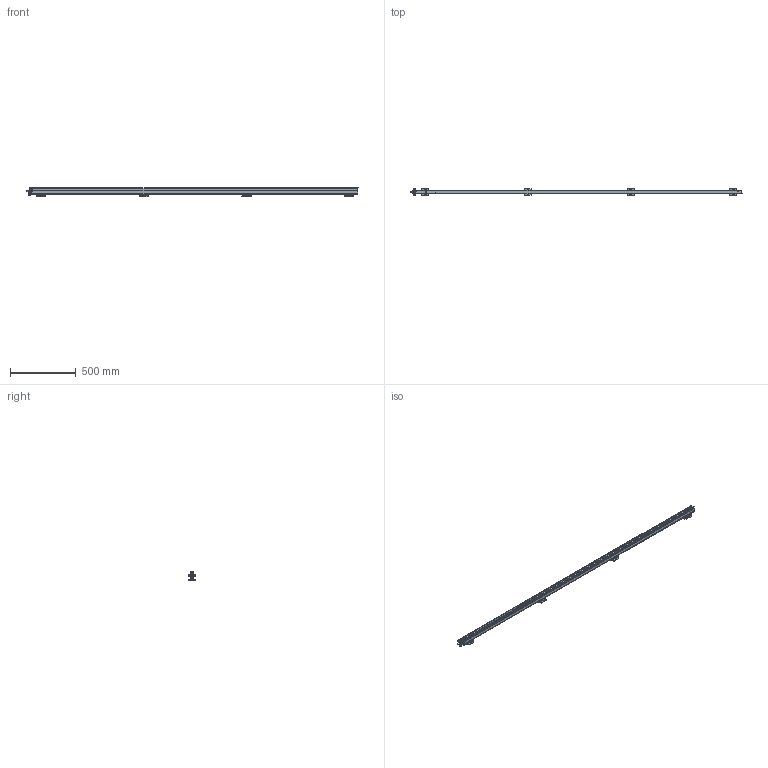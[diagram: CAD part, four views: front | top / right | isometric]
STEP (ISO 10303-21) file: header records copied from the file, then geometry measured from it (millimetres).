
FILE_DESCRIPTION(/* description */ (''),/* implementation_level */ '2;1');
FILE_NAME(/* name */ 'PERFORMAXEASYEX_2310_3D_GB',/* time_stamp */ '2017-05-31T09:53:33+02:00',/* author */ (''),/* organization */ (''),/* preprocessor_version */ 'ST-DEVELOPER v15.7',/* originating_system */ 'HiCAD 2015 2002.1 Build 408',/* authorisation */ '');
FILE_SCHEMA (('AUTOMOTIVE_DESIGN { 1 0 10303 214 1 1 1 1 }'));
Length unit declared in the file: millimetre
Products named in the file (75): Root; -_Performax (IQ) Easy Ex 2310 eff (Speed); -_LED; -_PROFILE; -_POTTING; -_CAP DE; -_CAP CE; -_CABLE; -_PIN; -_COVER; 4532000100_Mounting bracket bars; -_Side piece; -_Slide piece; -_Bracket small; DIN 13-M3; DIN 76-M3; 2047507823_PE connection; DIN 916-M4x20-45H_Set screws; GEWINDE; ISO 8738-4-160 HV_Washers for studs; ISO 4032-M4-10_Hexagon nuts; DIN 127-A 4-FSt_Washers; 2047493713_Cable exits; -_Exit K; -_Clip; -_Gland body; -_Exit S; -_Exit Q; -_Washer ø20mm, 5mm thick for corr. conduit (exit
 Q); -_Exit I; -_Exit U; -_Exit A; Thread_2
Assembly tree (74 placements, depth 5):
  Root
    -_Performax (IQ) Easy Ex 2310 eff (Speed)
      -_LED
      -_PROFILE
      -_POTTING
      -_CAP DE
      -_CAP CE
      -_CABLE
      -_PIN
      -_PIN
      -_COVER
      4532000100_Mounting bracket bars
        -_Side piece
        -_Side piece
        -_Slide piece
        -_Bracket small
          DIN 13-M3
          DIN 13-M3
          DIN 76-M3
          DIN 76-M3
      4532000100_Mounting bracket bars
        -_Side piece
        -_Side piece
        -_Slide piece
        -_Bracket small
          DIN 13-M3
          DIN 13-M3
          DIN 76-M3
          DIN 76-M3
      4532000100_Mounting bracket bars
        -_Side piece
        -_Side piece
        -_Slide piece
        -_Bracket small
          DIN 13-M3
          DIN 13-M3
          DIN 76-M3
          DIN 76-M3
      4532000100_Mounting bracket bars
        -_Side piece
        -_Side piece
        -_Slide piece
        -_Bracket small
          DIN 13-M3
          DIN 13-M3
          DIN 76-M3
          DIN 76-M3
      2047507823_PE connection
        DIN 916-M4x20-45H_Set screws
          GEWINDE
        ISO 8738-4-160 HV_Washers for studs
        ISO 4032-M4-10_Hexagon nuts
          GEWINDE
        DIN 127-A 4-FSt_Washers
        ISO 4032-M4-10_Hexagon nuts
          GEWINDE
      2047493713_Cable exits
        -_Exit K
          -_Clip
          -_Gland body
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Bounding box: 2532.4 x 58.79 x 68.9 mm (x, y, z)
Volume: 3061456.4 mm3; surface area: 868250.4 mm2
Topology: 63 solids, 75 shells, 3239 faces, 8266 edges, 4990 vertices
Faces by surface type: plane 1391, cylinder 1323, torus 177, sphere 165, bspline 128, cone 55
Full cylindrical faces by diameter (mm): 2.387 x16, 3 x32, 3.141 x4, 4 x5, 4.3 x1, 5.4 x2, 5.5 x20, 8 x2, 11.3 x4, 12.5 x4, 13 x1, 14.6 x5, 15.1 x5, 18.4 x4, 20 x7, 20.2 x4
Entity records: 176187 total; most frequent: CARTESIAN_POINT 35942, DIRECTION 16546, PRESENTATION_STYLE_ASSIGNMENT 15725, OVER_RIDING_STYLED_ITEM 15663, DRAUGHTING_PRE_DEFINED_CURVE_FONT 15640, CURVE_STYLE 15640, ORIENTED_EDGE 15640, EDGE_CURVE 7820
